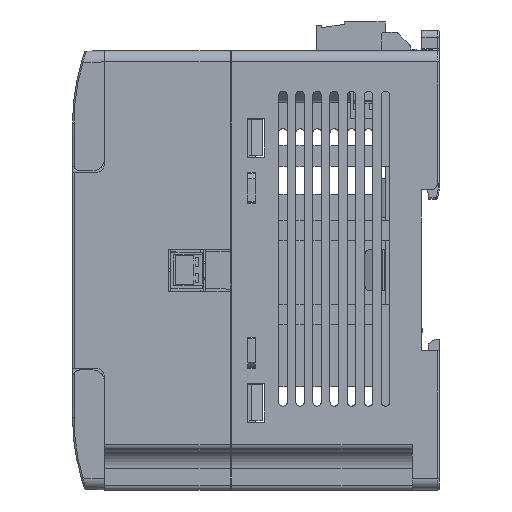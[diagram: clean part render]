
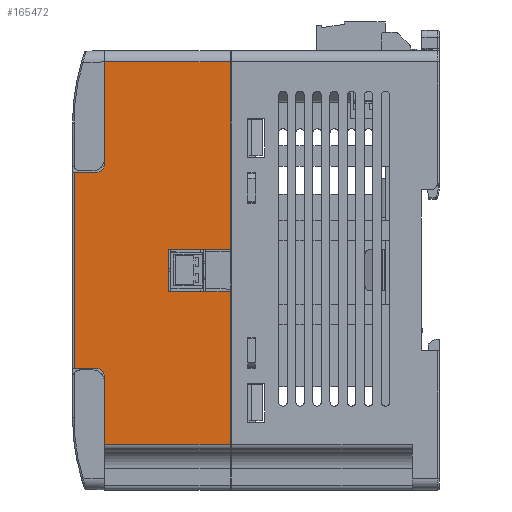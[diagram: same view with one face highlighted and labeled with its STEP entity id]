
A CAD part, left-side view. The second image highlights one B-rep face of the part: STEP entity #165472.
In plain terms, the highlighted planar face has unit normal (-1, 0, 0).
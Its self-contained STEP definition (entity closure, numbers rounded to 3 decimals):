
#140913=DIRECTION('',(0.,0.,-1.));
#140914=VECTOR('',#140913,15.05);
#140915=CARTESIAN_POINT('',(-62.4,27.75,-23.45));
#140916=LINE('',#140915,#140914);
#141072=DIRECTION('',(0.,0.,-1.));
#141073=VECTOR('',#141072,43.3);
#141074=CARTESIAN_POINT('',(-62.4,34.45,21.65));
#141075=LINE('',#141074,#141073);
#141089=DIRECTION('',(0.,1.,0.));
#141090=VECTOR('',#141089,4.9);
#141091=CARTESIAN_POINT('',(-62.4,29.55,21.65));
#141092=LINE('',#141091,#141090);
#145451=DIRECTION('',(0.,-1.,0.));
#145452=VECTOR('',#145451,27.75);
#145453=CARTESIAN_POINT('',(-62.4,27.75,-38.5));
#145454=LINE('',#145453,#145452);
#145459=DIRECTION('',(0.,-1.,0.));
#145460=VECTOR('',#145459,13.65);
#145461=CARTESIAN_POINT('',(-62.4,13.65,-4.6));
#145462=LINE('',#145461,#145460);
#145463=DIRECTION('',(0.,0.,-1.));
#145464=VECTOR('',#145463,33.9);
#145465=CARTESIAN_POINT('',(-62.4,0.,-4.6));
#145466=LINE('',#145465,#145464);
#145467=CARTESIAN_POINT('',(-62.4,29.55,-23.45));
#145468=DIRECTION('',(-1.,0.,0.));
#145469=DIRECTION('',(0.,-1.,0.));
#145470=AXIS2_PLACEMENT_3D('',#145467,#145468,#145469);
#145472=DIRECTION('',(0.,1.,0.));
#145473=VECTOR('',#145472,4.9);
#145474=CARTESIAN_POINT('',(-62.4,29.55,-21.65));
#145475=LINE('',#145474,#145473);
#145476=CARTESIAN_POINT('',(-62.4,29.55,23.45));
#145477=DIRECTION('',(-1.,0.,0.));
#145478=DIRECTION('',(0.,0.,-1.));
#145479=AXIS2_PLACEMENT_3D('',#145476,#145477,#145478);
#145481=DIRECTION('',(0.,0.,1.));
#145482=VECTOR('',#145481,22.55);
#145483=CARTESIAN_POINT('',(-62.4,27.75,23.45));
#145484=LINE('',#145483,#145482);
#145485=DIRECTION('',(0.,0.,-1.));
#145486=VECTOR('',#145485,41.4);
#145487=CARTESIAN_POINT('',(-62.4,0.,46.));
#145488=LINE('',#145487,#145486);
#145489=DIRECTION('',(0.,1.,0.));
#145490=VECTOR('',#145489,13.65);
#145491=CARTESIAN_POINT('',(-62.4,0.,4.6));
#145492=LINE('',#145491,#145490);
#145589=DIRECTION('',(0.,0.,1.));
#145590=VECTOR('',#145589,9.2);
#145591=CARTESIAN_POINT('',(-62.4,13.65,-4.6));
#145592=LINE('',#145591,#145590);
#145731=DIRECTION('',(0.,1.,0.));
#145732=VECTOR('',#145731,27.75);
#145733=CARTESIAN_POINT('',(-62.4,0.,46.));
#145734=LINE('',#145733,#145732);
#153090=CARTESIAN_POINT('',(-62.4,27.75,-23.45));
#153091=VERTEX_POINT('',#153090);
#153092=CARTESIAN_POINT('',(-62.4,27.75,-38.5));
#153093=VERTEX_POINT('',#153092);
#153148=CARTESIAN_POINT('',(-62.4,34.45,-21.65));
#153149=VERTEX_POINT('',#153148);
#153150=CARTESIAN_POINT('',(-62.4,29.55,-21.65));
#153151=VERTEX_POINT('',#153150);
#153152=CARTESIAN_POINT('',(-62.4,34.45,21.65));
#153153=VERTEX_POINT('',#153152);
#153156=CARTESIAN_POINT('',(-62.4,29.55,21.65));
#153157=VERTEX_POINT('',#153156);
#153190=CARTESIAN_POINT('',(-62.4,27.75,23.45));
#153191=VERTEX_POINT('',#153190);
#153202=CARTESIAN_POINT('',(-62.4,27.75,46.));
#153203=VERTEX_POINT('',#153202);
#154424=CARTESIAN_POINT('',(-62.4,0.,-38.5));
#154425=VERTEX_POINT('',#154424);
#154426=CARTESIAN_POINT('',(-62.4,0.,-4.6));
#154427=VERTEX_POINT('',#154426);
#154489=CARTESIAN_POINT('',(-62.4,13.65,-4.6));
#154490=VERTEX_POINT('',#154489);
#154491=CARTESIAN_POINT('',(-62.4,0.,46.));
#154492=VERTEX_POINT('',#154491);
#154493=CARTESIAN_POINT('',(-62.4,0.,4.6));
#154494=VERTEX_POINT('',#154493);
#154495=CARTESIAN_POINT('',(-62.4,13.65,4.6));
#154496=VERTEX_POINT('',#154495);
#165445=CARTESIAN_POINT('',(-62.4,-46.2,-48.5));
#165446=DIRECTION('',(-1.,0.,0.));
#165447=DIRECTION('',(0.,0.,1.));
#165448=AXIS2_PLACEMENT_3D('',#165445,#165446,#165447);
#165449=PLANE('',#165448);
#165451=ORIENTED_EDGE('',*,*,#165450,.T.);
#165452=ORIENTED_EDGE('',*,*,#164650,.T.);
#165453=ORIENTED_EDGE('',*,*,#165431,.F.);
#165454=ORIENTED_EDGE('',*,*,#157388,.F.);
#165456=ORIENTED_EDGE('',*,*,#165455,.T.);
#165457=ORIENTED_EDGE('',*,*,#157611,.T.);
#165458=ORIENTED_EDGE('',*,*,#157634,.F.);
#165459=ORIENTED_EDGE('',*,*,#157659,.F.);
#165460=ORIENTED_EDGE('',*,*,#157736,.T.);
#165461=ORIENTED_EDGE('',*,*,#157764,.T.);
#165463=ORIENTED_EDGE('',*,*,#165462,.F.);
#165465=ORIENTED_EDGE('',*,*,#165464,.T.);
#165467=ORIENTED_EDGE('',*,*,#165466,.T.);
#165469=ORIENTED_EDGE('',*,*,#165468,.F.);
#165470=EDGE_LOOP('',(#165451,#165452,#165453,#165454,#165456,#165457,#165458,
#165459,#165460,#165461,#165463,#165465,#165467,#165469));
#165471=FACE_OUTER_BOUND('',#165470,.F.);
#145471=CIRCLE('',#145470,1.8);
#145480=CIRCLE('',#145479,1.8);
#157388=EDGE_CURVE('',#153091,#153093,#140916,.T.);
#157611=EDGE_CURVE('',#153151,#153149,#145475,.T.);
#157634=EDGE_CURVE('',#153153,#153149,#141075,.T.);
#157659=EDGE_CURVE('',#153157,#153153,#141092,.T.);
#157736=EDGE_CURVE('',#153157,#153191,#145480,.T.);
#157764=EDGE_CURVE('',#153191,#153203,#145484,.T.);
#164650=EDGE_CURVE('',#154427,#154425,#145466,.T.);
#165431=EDGE_CURVE('',#153093,#154425,#145454,.T.);
#165450=EDGE_CURVE('',#154490,#154427,#145462,.T.);
#165455=EDGE_CURVE('',#153091,#153151,#145471,.T.);
#165462=EDGE_CURVE('',#154492,#153203,#145734,.T.);
#165464=EDGE_CURVE('',#154492,#154494,#145488,.T.);
#165466=EDGE_CURVE('',#154494,#154496,#145492,.T.);
#165468=EDGE_CURVE('',#154490,#154496,#145592,.T.);
#165472=ADVANCED_FACE('',(#165471),#165449,.T.);
